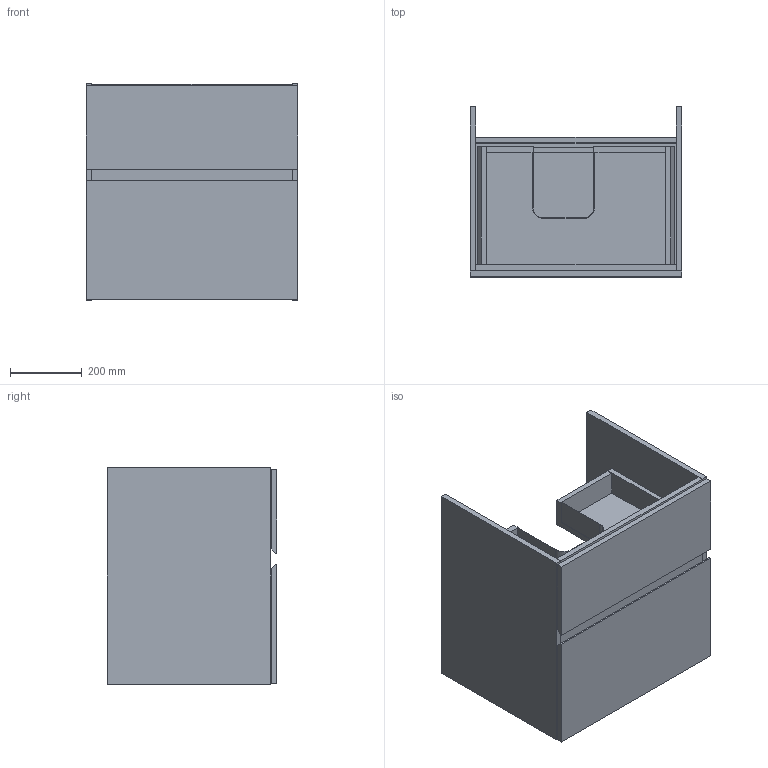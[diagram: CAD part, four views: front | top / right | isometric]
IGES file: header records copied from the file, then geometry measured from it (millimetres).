
Global section: file name: 510019; native system: Autodesk Inventor 2023; preprocessor: unknown; author: JANAN; date: 20241002.131548; units: millimetre
Bounding box: 592 x 474.5 x 605 mm (x, y, z)
Volume: 30124927.5 mm3; surface area: 4053070.1 mm2
Topology: 9 solids, 9 shells, 122 faces, 306 edges, 200 vertices
Faces by surface type: bspline 122
